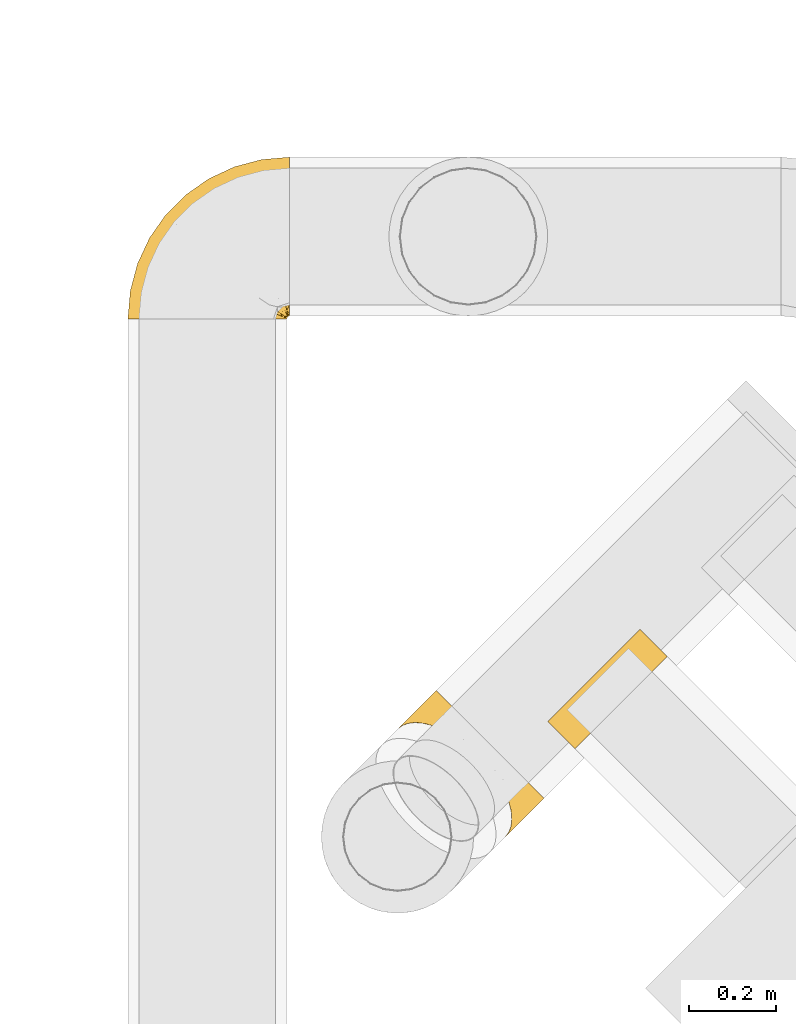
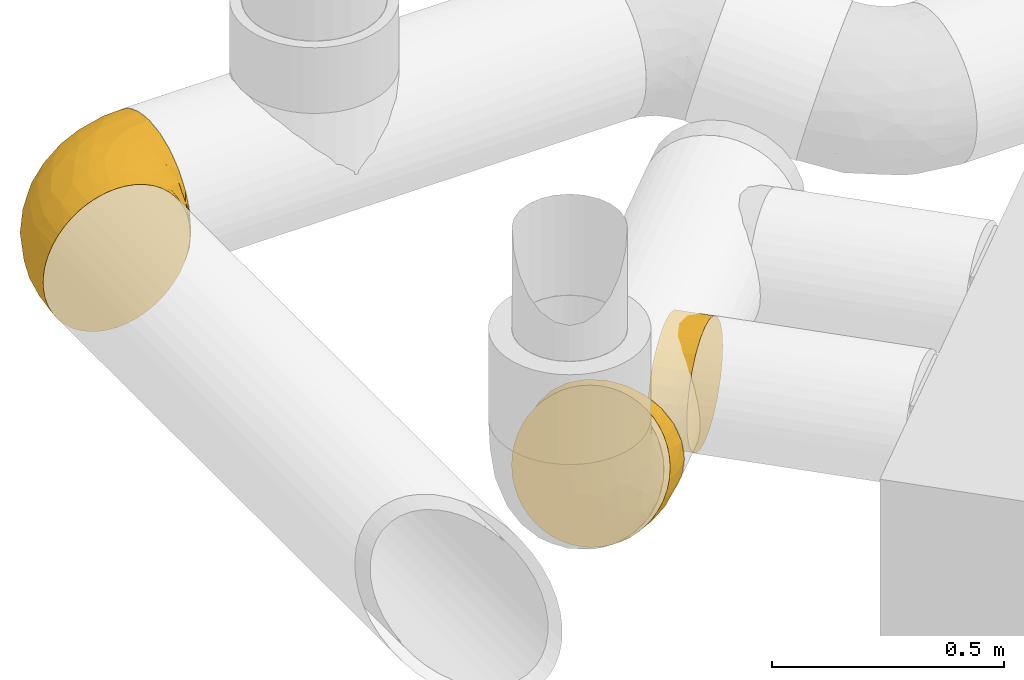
# One storey, part 3 of 12: 3 coverings.
"""IFC2X3 building model written with IfcOpenShell, lengths in millimetres."""

import ifcopenshell
import ifcopenshell.guid

model = None  # the IFC model being written
_history = None  # IfcOwnerHistory: only IFC2X3 demands one
_inside = {}  # id of a spatial element -> (the spatial element, [elements in it])
_under = {}  # id of a project, library or spatial element -> (it, [spatial elements below it])
_declared = {}  # id of a project -> (the project, [libraries it declares])
_typed = {}  # id of a type object -> (the type object, [elements of that type])
_made_of = {}  # id of a material, layer set ... -> (it, [elements and type objects made of it])


def new_model(schema):
    """Start an empty IFC model of exactly this schema.

    Asked for "IFC4X3", IfcOpenShell would pick the latest addendum, in which some entities
    have other attributes; the version numbers below select the first issue.
    IFC2X3 requires an IfcOwnerHistory on every rooted entity: one is made here for all.
    """
    global model, _history
    if schema == "IFC4X3":
        model = ifcopenshell.file(schema_version=(4, 3, 0, 0))
    else:
        model = ifcopenshell.file(schema=schema)
    _inside.clear()
    _under.clear()
    _declared.clear()
    _typed.clear()
    _made_of.clear()
    _history = None
    if model.schema == "IFC2X3":
        org = make("IfcOrganization", Name="unknown")
        user = make(
            "IfcPersonAndOrganization",
            ThePerson=make("IfcPerson", FamilyName="unknown"),
            TheOrganization=org,
        )
        app = make(
            "IfcApplication",
            ApplicationDeveloper=org,
            Version="unknown",
            ApplicationFullName="unknown",
            ApplicationIdentifier="unknown",
        )
        _history = make(
            "IfcOwnerHistory",
            OwningUser=user,
            OwningApplication=app,
            ChangeAction="ADDED",
            CreationDate=0,
        )
    return model


def make(cls, **values):
    """One entity of the class cls with the attributes given. An attribute that is None is left unset."""
    return model.create_entity(
        cls, **{name: value for name, value in values.items() if value is not None}
    )


def entity(cls, *values):
    """Any entity or typed value of the class cls, its attributes in the order of the schema. None: left unset."""
    e = model.create_entity(cls)
    for i, value in enumerate(values):
        if value is not None:
            e[i] = value
    return e


def rooted(cls, **values):
    """An entity with a GlobalId (a new one), such as an element, a storey or a relation."""
    return make(cls, GlobalId=ifcopenshell.guid.new(), OwnerHistory=_history, **values)


def si_unit(unit_type, name, prefix=None):
    """IfcSIUnit, for example si_unit("LENGTHUNIT", "METRE", prefix="MILLI")."""
    return make("IfcSIUnit", UnitType=unit_type, Prefix=prefix, Name=name)


def converted_unit(unit_type, name, factor, base, dimensions=None, offset=None):
    """IfcConversionBasedUnit, such as the inch: factor (a typed value) times the base unit."""
    return make(
        "IfcConversionBasedUnit"
        if offset is None
        else "IfcConversionBasedUnitWithOffset",
        ConversionOffset=offset,
        Dimensions=None
        if dimensions is None
        else entity("IfcDimensionalExponents", *dimensions),
        UnitType=unit_type,
        Name=name,
        ConversionFactor=make(
            "IfcMeasureWithUnit", ValueComponent=factor, UnitComponent=base
        ),
    )


def derived_unit(unit_type, elements):
    """IfcDerivedUnit: a product of units, each with its exponent."""
    return make(
        "IfcDerivedUnit",
        Elements=[
            make("IfcDerivedUnitElement", Unit=unit, Exponent=power)
            for unit, power in elements
        ],
        UnitType=unit_type,
    )


def assignment(units):
    """IfcUnitAssignment: the units of a project."""
    return None if units is None else make("IfcUnitAssignment", Units=units)


def point(xyz):
    """IfcCartesianPoint."""
    return None if xyz is None else make("IfcCartesianPoint", Coordinates=xyz)


def direction(xyz):
    """IfcDirection."""
    return None if xyz is None else make("IfcDirection", DirectionRatios=xyz)


def frame(location, z_axis=None, x_axis=None):
    """IfcAxis2Placement3D, a coordinate frame: its origin and axes. An axis left out is left unset."""
    return make(
        "IfcAxis2Placement3D",
        Location=point(location),
        Axis=direction(z_axis),
        RefDirection=direction(x_axis),
    )


def origin_with_axes():
    """The frame at (0, 0, 0) with the z axis (0, 0, 1) and the x axis (1, 0, 0) written out."""
    return frame((0.0, 0.0, 0.0), z_axis=(0.0, 0.0, 1.0), x_axis=(1.0, 0.0, 0.0))


def place(relative_to, where):
    """IfcLocalPlacement: puts the frame where relative to a parent placement (None: the world)."""
    return make(
        "IfcLocalPlacement", PlacementRelTo=relative_to, RelativePlacement=where
    )


def context(
    kind, dimensions, precision=None, world=None, true_north=None, identifier=None
):
    """IfcGeometricRepresentationContext, for example the 3D "Model" context."""
    return make(
        "IfcGeometricRepresentationContext",
        ContextIdentifier=identifier,
        ContextType=kind,
        CoordinateSpaceDimension=dimensions,
        Precision=precision,
        WorldCoordinateSystem=world,
        TrueNorth=true_north,
    )


def subcontext(parent, identifier, kind, view, scale=None):
    """IfcGeometricRepresentationSubContext, for example "Body" below "Model"."""
    return make(
        "IfcGeometricRepresentationSubContext",
        ContextIdentifier=identifier,
        ContextType=kind,
        ParentContext=parent,
        TargetScale=scale,
        TargetView=view,
    )


def project(units=None, contexts=None):
    """IfcProject with its units and contexts."""
    return rooted(
        "IfcProject",
        Name="project",
        RepresentationContexts=contexts,
        UnitsInContext=assignment(units),
    )


def spatial(cls, under=None, at=None, **own):
    """A site, building, storey or space (cls), placed at a placement, below another one or the project."""
    s = rooted(cls, ObjectPlacement=at, **own)
    if under is not None:
        _under.setdefault(under.id(), (under, []))[1].append(s)
    return s


def faces_of(points, faces, orient=None, outer=None):
    """IfcFace entities. A face is a list of loops; a loop is a list of indices into points, from 0.

    orient and outer hold one flag for each loop. By default every Orientation is true, the
    first loop of a face is its IfcFaceOuterBound and the others are IfcFaceBound.
    """
    made = []
    for i, loops in enumerate(faces):
        bounds = []
        for j, loop in enumerate(loops):
            is_outer = j == 0 if outer is None else outer[i][j]
            bounds.append(
                make(
                    "IfcFaceOuterBound" if is_outer else "IfcFaceBound",
                    Bound=make("IfcPolyLoop", Polygon=[points[k] for k in loop]),
                    Orientation=True if orient is None else orient[i][j],
                )
            )
        made.append(make("IfcFace", Bounds=bounds))
    return made


def open_shell(faces, orient=None, outer=None):
    """The faces of one IfcOpenShell. surface_model builds it on its shared points."""
    return ("IfcOpenShell", faces, orient, outer)


def surface_model(cls, points, shells):
    """IfcFaceBasedSurfaceModel or IfcShellBasedSurfaceModel (cls): surfaces that need not close."""
    shared = [point(p) for p in points]
    made = [make(c, CfsFaces=faces_of(shared, fs, o, b)) for c, fs, o, b in shells]
    if cls == "IfcFaceBasedSurfaceModel":
        return make(cls, FbsmFaces=made)
    return make(cls, SbsmBoundary=made)


def shape(context_of_items, identifier, shape_type, items):
    """IfcShapeRepresentation: the items that make up one representation, for example the "Body"."""
    return make(
        "IfcShapeRepresentation",
        ContextOfItems=context_of_items,
        RepresentationIdentifier=identifier,
        RepresentationType=shape_type,
        Items=items,
    )


def source(mapping_origin, context_of_items, identifier, shape_type, items):
    """IfcRepresentationMap: a shape defined once, which mapped items show again and again."""
    return make(
        "IfcRepresentationMap",
        MappingOrigin=mapping_origin,
        MappedRepresentation=shape(context_of_items, identifier, shape_type, items),
    )


def transform(
    local_origin,
    x_axis=None,
    y_axis=None,
    z_axis=None,
    scale=None,
    scale2=None,
    scale3=None,
    uniform=True,
):
    """IfcCartesianTransformationOperator3D, or its non-uniform kind. x_axis, y_axis, z_axis: its Axis1, 2, 3."""
    if uniform:
        return make(
            "IfcCartesianTransformationOperator3D",
            Axis1=direction(x_axis),
            Axis2=direction(y_axis),
            LocalOrigin=point(local_origin),
            Scale=scale,
            Axis3=direction(z_axis),
        )
    return make(
        "IfcCartesianTransformationOperator3DnonUniform",
        Axis1=direction(x_axis),
        Axis2=direction(y_axis),
        LocalOrigin=point(local_origin),
        Scale=scale,
        Axis3=direction(z_axis),
        Scale2=scale2,
        Scale3=scale3,
    )


def mapped(mapping_source, mapping_target):
    """IfcMappedItem: shows the shape of a source again, moved by a transform."""
    return make(
        "IfcMappedItem", MappingSource=mapping_source, MappingTarget=mapping_target
    )


def made_of(thing, what):
    """Note that an element or type object is made of a material, layer set ...; save() writes the relation."""
    if what is not None:
        _made_of.setdefault(what.id(), (what, []))[1].append(thing)
    return thing


def element(
    cls,
    number,
    at=None,
    inside=None,
    cuts=None,
    type_object=None,
    material=None,
    context=None,
    identifier="Body",
    shape_type=None,
    held_by="IfcProductDefinitionShape",
    body=None,
    shapes=None,
    **own,
):
    """One element of the class cls, such as IfcWall. Its Tag is "e" and its number.

    at: its placement. inside: the storey or other place that contains it. cuts: it is an
    opening in that element (IfcRelVoidsElement). A single representation is given by context,
    identifier, shape_type and body (its items); several are given by shapes. held_by: the class
    of the entity that holds the representations. save() writes the other relations.
    """
    e = rooted(cls, Tag="e%d" % number, ObjectPlacement=at, **own)
    if body is not None:
        shapes = [shape(context, identifier, shape_type, body)]
    if shapes is not None:
        e.Representation = make(held_by, Representations=shapes)
    if inside is not None:
        _inside.setdefault(inside.id(), (inside, []))[1].append(e)
    if cuts is not None:
        rooted(
            "IfcRelVoidsElement", RelatingBuildingElement=cuts, RelatedOpeningElement=e
        )
    if type_object is not None:
        _typed.setdefault(type_object.id(), (type_object, []))[1].append(e)
    return made_of(e, material)


def aggregate(whole, parts):
    """IfcRelAggregates: a whole, such as a stair, and the parts it consists of."""
    return rooted("IfcRelAggregates", RelatingObject=whole, RelatedObjects=parts)


def save(model, path):
    """Write the relations noted so far, then the file.

    IfcRelAggregates (storeys below a building ...), IfcRelContainedInSpatialStructure (elements
    in a storey), IfcRelDefinesByType, IfcRelAssociatesMaterial and IfcRelDeclares: one each for
    every whole, place, type object, material and project.
    """
    for whole, parts in _under.values():
        aggregate(whole, parts)
    for where, things in _inside.values():
        rooted(
            "IfcRelContainedInSpatialStructure",
            RelatedElements=things,
            RelatingStructure=where,
        )
    for kind, things in _typed.values():
        rooted("IfcRelDefinesByType", RelatedObjects=things, RelatingType=kind)
    for what, things in _made_of.values():
        rooted("IfcRelAssociatesMaterial", RelatedObjects=things, RelatingMaterial=what)
    for by, libraries in _declared.values():
        rooted("IfcRelDeclares", RelatingContext=by, RelatedDefinitions=libraries)
    model.write(path)


model = new_model("IFC2X3")

# Units and contexts
model_context = context("Model", 3, precision=0.01, world=frame((0.0, 4.29681676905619e-09, 0.0)), true_north=direction((4.01073788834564e-13, 1.0)))
plan_context = context("Plan", 3, precision=0.01, world=frame((0.0, 4.29681676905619e-09, 0.0)), true_north=direction((4.01073788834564e-13, 1.0)))
body_context = subcontext(model_context, "Body", "Model", "MODEL_VIEW")
ifc_project = project(units=[converted_unit("PLANEANGLEUNIT", "DEGREE", entity("IfcPositiveLengthMeasure", 0.0174532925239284), si_unit("PLANEANGLEUNIT", "RADIAN"), dimensions=[0, 0, 0, 0, 0, 0, 0]), si_unit("AREAUNIT", "SQUARE_METRE"), si_unit("LENGTHUNIT", "METRE", prefix="MILLI"), si_unit("MASSUNIT", "GRAM", prefix="KILO"), si_unit("POWERUNIT", "WATT"), si_unit("PRESSUREUNIT", "PASCAL", prefix="KILO"), si_unit("FORCEUNIT", "NEWTON", prefix="KILO"), si_unit("ELECTRICVOLTAGEUNIT", "VOLT"), si_unit("ELECTRICCURRENTUNIT", "AMPERE"), si_unit("THERMODYNAMICTEMPERATUREUNIT", "DEGREE_CELSIUS"), si_unit("TIMEUNIT", "SECOND"), si_unit("VOLUMEUNIT", "CUBIC_METRE"), derived_unit("LINEARVELOCITYUNIT", [(si_unit("LENGTHUNIT", "METRE"), 1), (si_unit("TIMEUNIT", "SECOND"), -1)]), derived_unit("VOLUMETRICFLOWRATEUNIT", [(si_unit("VOLUMEUNIT", "CUBIC_METRE"), 1), (si_unit("TIMEUNIT", "SECOND"), -1)]), derived_unit("THERMALTRANSMITTANCEUNIT", [(si_unit("POWERUNIT", "WATT"), 1), (si_unit("THERMODYNAMICTEMPERATUREUNIT", "KELVIN"), -1), (si_unit("AREAUNIT", "SQUARE_METRE"), -1)]), derived_unit("SOUNDPRESSUREUNIT", [(si_unit("PRESSUREUNIT", "PASCAL"), 1)])], contexts=[model_context, plan_context])

# Site, building, storey
site_placement = place(None, frame((0.0, -4.29681676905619e-09, 0.0), z_axis=(0.0, 0.0, 1.0), x_axis=(1.0, 0.0, 0.0)))
site = spatial("IfcSite", under=ifc_project, at=site_placement, CompositionType="ELEMENT")
building_placement = place(site_placement, frame((0.0, 4.29681676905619e-09, 0.0), z_axis=(0.0, 0.0, 1.0), x_axis=(1.0, 0.0, 0.0)))
building = spatial("IfcBuilding", under=site, at=building_placement, Name="mc-building", CompositionType="ELEMENT")
storey_placement = place(building_placement, frame((0.0, 0.0, 204000.0), z_axis=(0.0, 0.0, 1.0), x_axis=(1.0, 0.0, 0.0)))
storey = spatial("IfcBuildingStorey", under=building, at=storey_placement, Name="Nivå D", CompositionType="ELEMENT", Elevation=204000.0)

# Coverings
shared_shape_1 = source(origin_with_axes(), body_context, "Body", "SurfaceModel", [
    surface_model("IfcShellBasedSurfaceModel", [(69.84097, 189.0, 168.6075), (91.25153, 189.0, 158.04875), (111.1007, 189.0, 144.78565), (-23.81657, 189.0, 180.93928), (0.0, 189.0, 182.5), (23.82149, 189.0, 180.93863), (158.05133, 189.0, 91.24706), (168.60946, 189.0, 69.83624), (176.28254, 189.0, 47.23048), (180.93928, 189.0, 23.81657), (144.78881, 189.0, 111.09658), (129.04883, 189.0, 129.04515), (-111.09658, 189.0, 144.78881), (-47.23048, 189.0, 176.28254), (-91.24706, 189.0, 158.05133), (-69.83624, 189.0, 168.60946), (-129.04515, 189.0, 129.04883), (-158.04875, 189.0, 91.25153), (-176.28123, 189.0, 47.23535), (-168.6075, 189.0, 69.84097), (-144.78565, 189.0, 111.1007), (-180.93863, 189.0, 23.82149), (-182.5, 189.0, 0.0), (168.6075, 189.0, -69.84097), (180.93863, 189.0, -23.82149), (176.28123, 189.0, -47.23535), (91.24706, 189.0, -158.05133), (158.04875, 189.0, -91.25153), (144.78565, 189.0, -111.1007), (111.09658, 189.0, -144.78881), (69.83624, 189.0, -168.60946), (47.23048, 189.0, -176.28254), (23.81657, 189.0, -180.93928), (129.04515, 189.0, -129.04883), (-168.60946, 189.0, -69.83624), (-144.78881, 189.0, -111.09658), (-158.05133, 189.0, -91.24706), (-23.82149, 189.0, -180.93863), (-69.84097, 189.0, -168.6075), (0.0, 189.0, -182.5), (-47.23535, 189.0, -176.28123), (-111.1007, 189.0, -144.78565), (-91.25153, 189.0, -158.04875), (-129.04883, 189.0, -129.04515), (182.5, 189.0, 0.0), (-189.0, 176.28146, -47.23448), (-189.0, 176.28146, 47.23448), (-189.0, 182.5, 0.0), (-189.0, 158.04964, -91.25), (-189.0, -176.28146, 47.23448), (-189.0, 91.25, -158.04964), (-189.0, 47.23448, -176.28146), (-189.0, 129.04698, -129.04698), (-189.0, 129.04698, 129.04698), (-189.0, 158.04964, 91.25), (-189.0, 47.23448, 176.28146), (-189.0, 91.25, 158.04964), (-189.0, 0.0, 182.5), (-189.0, -176.28146, -47.23448), (-189.0, -47.23448, -176.28146), (-189.0, -129.04698, -129.04698), (-189.0, -91.25, -158.04964), (-189.0, -158.04964, -91.25), (-189.0, -129.04698, 129.04698), (-189.0, -91.25, 158.04964), (-189.0, -47.23448, 176.28146), (-189.0, -158.04964, 91.25), (-189.0, -182.5, 0.0), (-189.0, 0.0, -182.5), (-124.4897, -176.85608, 0.0), (-140.28787, -113.58629, 139.65738), (112.93675, 51.29742, 113.57233), (126.67686, 36.26371, 84.64088), (134.4319, 106.78829, 111.19026), (-61.93952, -160.09581, 0.0), (-99.0067, -165.35368, 46.01893), (-36.80451, -144.41853, 42.37423), (-3.25, -132.72844, 0.0), (20.2954, -112.25886, 41.03768), (104.14185, 129.90078, 145.59351), (18.50003, 40.24342, 170.02594), (-29.2302, 29.2302, 178.7206), (-21.98923, -9.93994, 168.22838), (49.7956, -95.58551, 0.0), (95.58551, -49.7956, 0.0), (71.81869, -71.8187, 30.96813), (-4.73862, 146.94355, 182.5), (17.65802, 97.64771, 178.7206), (149.13237, 91.42244, 82.21918), (15.17626, -101.63263, 75.42756), (112.25885, -20.29541, 41.03768), (146.10062, 36.07593, 33.78674), (47.23535, 189.0, 176.28123), (61.67827, 104.90662, 166.19256), (-76.22989, -105.02159, 132.11331), (-47.10031, -62.05278, 153.06818), (-122.43863, -73.83992, 162.9717), (94.62417, 69.15287, 138.44729), (-81.63605, -34.05989, 172.85179), (-116.85545, -142.65401, 103.35884), (62.91033, 19.67487, 142.08932), (22.23217, 0.31452, 156.28912), (80.53323, -11.83553, 107.97754), (-106.99598, 18.71688, 182.5), (-146.94355, 4.73862, 182.5), (-41.23385, 71.16043, 182.5), (-71.16043, 41.23385, 182.5), (64.99581, -64.99582, 65.8539), (132.72844, 3.25, 0.0), (176.85608, 124.4897, 0.0), (163.00691, 95.72069, 51.2492), (160.09581, 61.93952, 0.0), (25.07687, -73.68204, 104.14494), (100.99277, -17.17918, 74.01604), (30.25322, -30.25323, 136.55802), (-18.71688, 106.99598, 182.5), (-45.89387, -135.01649, 77.5325), (-35.11229, -110.71033, 106.90726), (-15.76706, -76.97653, 129.67451), (-182.95217, 179.79064, 40.35507), (-180.1747, 182.02744, 41.35503), (-184.40381, 184.40381, 0.0), (-186.7517, 179.22981, 35.69859), (-105.21903, 55.66335, 179.75631), (-140.20608, 49.55498, 177.77369), (-173.30917, 171.71626, 76.57838), (-167.47012, 175.67191, 80.71908), (-173.49704, 184.34896, 58.66377), (-160.10711, 178.6444, 90.80213), (-84.53527, 84.53527, 177.77369), (-123.9614, 85.49166, 169.85319), (-180.44269, 186.8774, 28.98626), (-70.09338, 112.51552, 176.17805), (-182.56295, 169.65065, 69.83972), (-100.54916, 112.69699, 167.61728), (-144.24975, 129.66655, 141.96514), (-185.59616, 181.14775, 27.33191), (-187.13658, 183.27184, 0.0), (-152.40917, 84.18383, 165.00087), (-164.40928, 115.08202, 144.78698), (-178.49675, 146.05268, 111.09896), (-144.32064, 162.44693, 120.54112), (-151.748, 156.16312, 117.85674), (-38.79868, 157.8359, 178.99416), (-40.87043, 128.51914, 180.18132), (-104.99985, 164.10668, 151.74498), (-140.3263, 171.3037, 120.33241), (-66.90862, 166.32993, 170.60009), (-167.01766, 150.63899, 111.09896), (-183.27184, 187.13658, 0.0), (-99.96697, 143.83502, 159.23445), (-124.24918, 156.15299, 140.56538), (-67.28184, 142.37945, 172.81601), (-183.83783, 185.7702, 0.0), (-180.65494, 185.12048, 31.29219), (-119.29728, 135.9224, 151.74498), (-185.7702, 183.83783, 0.0), (-178.22564, 170.61121, 72.02255), (-129.91097, 94.96035, -165.0214), (-141.79795, 54.10428, -176.58562), (-152.86031, 86.49032, -163.88149), (-146.94355, 4.73862, -182.5), (-184.71102, 169.06415, -69.83973), (-188.0683, 182.88593, 0.0), (-99.55828, 114.60354, -167.41135), (-123.02551, 129.37693, -152.61429), (-160.52389, 176.39441, -91.58017), (-164.19249, 183.93583, -80.71448), (-140.22914, 171.58344, -120.32851), (-150.01447, 138.11866, -133.06459), (-165.11013, 114.85254, -144.78698), (-59.20446, 117.92957, -177.83013), (-94.35174, 136.40283, -163.67858), (-63.35967, 154.32953, -172.81438), (-142.11499, 150.43978, -129.7946), (-169.06134, 163.4123, -93.78096), (-179.78421, 170.80929, -69.83973), (-177.32689, 177.06463, -60.14275), (-111.39211, 65.48775, -177.33051), (-87.94336, 87.94336, -176.58562), (-41.23385, 71.16043, -182.5), (-177.73421, 146.24637, -111.09896), (-173.84484, 183.32175, -58.65896), (-71.16043, 41.23385, -182.5), (-106.99598, 18.71688, -182.5), (-179.19635, 186.99871, -35.59975), (-180.93928, 189.0, -23.81657), (-176.28254, 189.0, -47.23048), (-181.11909, 185.3052, -28.27745), (-172.54283, 178.30501, -67.96364), (-181.25423, 183.20553, -33.88488), (-186.36648, 179.7002, -33.84353), (-123.25885, 153.70837, -142.20521), (-104.54961, 165.6959, -151.7421), (-184.31088, 180.66343, -33.30575), (-33.6862, 159.51059, -179.86309), (-4.73862, 146.94355, -182.5), (-18.71688, 106.99598, -182.5), (-159.61511, 166.0988, -101.38891), (-172.86706, 156.02965, -100.56205), (-165.72715, 136.89696, -126.09228), (-186.7019, 183.4519, 0.0), (-182.9179, 182.32118, -30.30181), (-185.55285, 183.92785, 0.0), (-97.64777, -17.65796, -178.72061), (92.42782, -18.92039, -86.11789), (64.9964, -64.99641, -65.85176), (49.57078, -51.6556, -104.14415), (-48.85425, 14.92013, -179.21266), (-104.13678, -64.0922, -165.0196), (-76.22989, -105.02159, -132.11331), (-140.28787, -113.58629, -139.65738), (-40.24354, -18.49992, -170.02601), (15.60887, 12.9527, -163.57877), (-34.14541, -59.14577, -150.31298), (3.82434, 54.80521, -176.6273), (163.00429, 95.71541, -51.25324), (126.67233, 36.25835, -84.64422), (148.15814, 111.99687, -93.31431), (26.53016, 117.75471, -178.49993), (84.20189, 121.56842, -157.37973), (54.52793, 67.7419, -162.51001), (-116.85545, -142.65401, -103.35884), (-99.0067, -165.35368, -46.01893), (141.11598, 35.16824, -51.1041), (112.25899, -20.29555, -41.03682), (12.18108, -97.9976, -85.01798), (20.29554, -112.259, -41.03682), (-45.89387, -135.01649, -77.5325), (-36.29785, -146.16802, -33.94951), (-42.78235, -114.59246, -106.82453), (71.81884, -71.81885, -30.96692), (86.56721, 14.87417, -120.60348), (60.36655, 22.89144, -145.14869), (116.75496, 91.9256, -126.23901), (-9.6074, -80.09209, -123.4542), (30.25303, -30.25305, -136.55824)], [open_shell([[[0, 1, 2]], [[3, 4, 5]], [[6, 7, 8]], [[6, 8, 9]], [[10, 6, 2]], [[11, 10, 2]], [[12, 6, 9]], [[13, 14, 15]], [[13, 12, 14]], [[16, 12, 17]], [[17, 18, 19]], [[17, 20, 16]], [[17, 21, 18]], [[21, 17, 22]], [[12, 22, 17]], [[9, 22, 12]], [[23, 24, 25]], [[26, 27, 28]], [[29, 26, 28]], [[30, 31, 32]], [[30, 32, 26]], [[28, 33, 29]], [[34, 35, 36]], [[37, 38, 39]], [[38, 37, 40]], [[41, 38, 42]], [[41, 43, 38]], [[24, 9, 44]], [[45, 46, 47]], [[48, 49, 45]], [[50, 51, 48]], [[50, 48, 52]], [[45, 49, 46]], [[46, 53, 54]], [[49, 55, 53]], [[53, 55, 56]], [[57, 55, 49]], [[49, 53, 46]], [[58, 48, 51]], [[51, 59, 58]], [[60, 59, 61]], [[62, 58, 59]], [[62, 59, 60]], [[48, 58, 49]], [[57, 63, 64]], [[64, 65, 57]], [[63, 49, 66]], [[63, 57, 49]], [[58, 67, 49]], [[51, 68, 59]], [[67, 69, 49]], [[70, 64, 63]], [[71, 72, 73]], [[69, 74, 75]], [[76, 77, 78]], [[79, 11, 2]], [[75, 66, 49]], [[80, 81, 82]], [[83, 84, 85]], [[5, 86, 87]], [[88, 73, 72]], [[76, 78, 89]], [[72, 90, 91]], [[92, 93, 0]], [[83, 78, 77]], [[94, 95, 96]], [[93, 97, 79]], [[57, 65, 98]], [[63, 66, 99]], [[100, 80, 101]], [[100, 102, 71]], [[103, 98, 81]], [[96, 65, 64]], [[57, 98, 104]], [[80, 87, 81]], [[88, 7, 6]], [[83, 85, 78]], [[98, 103, 104]], [[81, 105, 106]], [[100, 93, 80]], [[90, 107, 85]], [[71, 102, 72]], [[99, 94, 70]], [[108, 90, 84]], [[109, 110, 111]], [[10, 88, 6]], [[9, 110, 109]], [[73, 88, 10]], [[89, 107, 112]], [[8, 110, 9]], [[108, 111, 91]], [[110, 8, 7]], [[113, 107, 90]], [[109, 44, 9]], [[107, 102, 112]], [[101, 95, 114]], [[80, 93, 87]], [[87, 115, 105]], [[73, 10, 11]], [[4, 86, 5]], [[82, 81, 98]], [[115, 87, 86]], [[49, 69, 75]], [[0, 93, 79]], [[81, 87, 105]], [[87, 92, 5]], [[73, 79, 97]], [[79, 1, 0]], [[75, 116, 99]], [[1, 79, 2]], [[79, 73, 11]], [[87, 93, 92]], [[117, 112, 118]], [[111, 110, 91]], [[76, 116, 75]], [[103, 81, 106]], [[90, 85, 84]], [[78, 85, 107]], [[95, 82, 98]], [[101, 80, 82]], [[96, 95, 98]], [[95, 94, 118]], [[65, 96, 98]], [[96, 64, 70]], [[75, 99, 66]], [[99, 116, 117]], [[95, 101, 82]], [[100, 101, 114]], [[100, 114, 102]], [[93, 100, 97]], [[112, 102, 114]], [[113, 102, 107]], [[114, 95, 118]], [[107, 89, 78]], [[117, 118, 94]], [[114, 118, 112]], [[99, 117, 94]], [[117, 116, 89]], [[117, 89, 112]], [[76, 89, 116]], [[72, 110, 88]], [[88, 110, 7]], [[73, 97, 71]], [[71, 97, 100]], [[99, 70, 63]], [[96, 70, 94]], [[72, 91, 110]], [[108, 91, 90]], [[90, 72, 113]], [[102, 113, 72]], [[75, 74, 76]], [[77, 76, 74]], [[119, 120, 121]], [[47, 46, 122]], [[123, 124, 103]], [[55, 57, 104]], [[125, 126, 120]], [[127, 126, 128]], [[123, 129, 130]], [[129, 106, 105]], [[131, 18, 21]], [[115, 132, 105]], [[133, 46, 54]], [[120, 119, 125]], [[130, 134, 135]], [[122, 136, 137]], [[124, 104, 103]], [[124, 130, 138]], [[139, 53, 56]], [[106, 123, 103]], [[140, 54, 53]], [[55, 104, 124]], [[56, 55, 138]], [[141, 126, 142]], [[143, 144, 86]], [[130, 129, 134]], [[86, 4, 3]], [[134, 129, 132]], [[145, 16, 146]], [[147, 13, 15]], [[147, 143, 13]], [[139, 148, 140]], [[14, 12, 145]], [[22, 149, 131]], [[146, 16, 20]], [[12, 16, 145]], [[150, 145, 151]], [[17, 128, 20]], [[19, 127, 128]], [[144, 143, 152]], [[115, 144, 132]], [[19, 18, 127]], [[147, 14, 145]], [[138, 55, 124]], [[149, 153, 154]], [[147, 152, 143]], [[142, 135, 155]], [[154, 131, 149]], [[126, 125, 142]], [[17, 19, 128]], [[86, 3, 143]], [[3, 13, 143]], [[140, 133, 54]], [[151, 145, 146]], [[122, 46, 133]], [[120, 153, 121]], [[154, 127, 131]], [[154, 126, 127]], [[156, 137, 136]], [[157, 148, 125]], [[157, 125, 119]], [[148, 135, 142]], [[148, 142, 125]], [[155, 151, 141]], [[129, 123, 106]], [[124, 123, 130]], [[139, 140, 53]], [[133, 140, 148]], [[153, 120, 154]], [[126, 154, 120]], [[148, 139, 135]], [[135, 139, 138]], [[132, 144, 152]], [[86, 144, 115]], [[150, 134, 132]], [[105, 132, 129]], [[150, 132, 152]], [[134, 155, 135]], [[14, 147, 15]], [[145, 152, 147]], [[135, 138, 130]], [[56, 138, 139]], [[18, 131, 127]], [[22, 131, 21]], [[141, 128, 126]], [[128, 146, 20]], [[141, 151, 146]], [[150, 151, 155]], [[134, 150, 155]], [[152, 145, 150]], [[141, 146, 128]], [[155, 141, 142]], [[119, 121, 156]], [[47, 122, 137]], [[133, 157, 136]], [[133, 136, 122]], [[156, 136, 119]], [[136, 157, 119]], [[148, 157, 133]], [[158, 159, 160]], [[160, 51, 50]], [[161, 51, 159]], [[45, 162, 48]], [[45, 47, 163]], [[164, 158, 165]], [[166, 167, 168]], [[169, 158, 170]], [[171, 172, 173]], [[174, 169, 175]], [[68, 51, 161]], [[176, 177, 175]], [[178, 158, 179]], [[171, 180, 179]], [[52, 181, 170]], [[160, 50, 170]], [[182, 167, 166]], [[159, 158, 178]], [[179, 180, 183]], [[168, 35, 43]], [[184, 159, 178]], [[185, 186, 187]], [[186, 185, 22]], [[181, 52, 48]], [[187, 34, 185]], [[22, 185, 149]], [[188, 189, 190]], [[182, 185, 167]], [[162, 191, 176]], [[192, 193, 172]], [[43, 193, 168]], [[193, 43, 41]], [[176, 194, 177]], [[42, 38, 193]], [[173, 38, 40]], [[193, 38, 173]], [[195, 40, 37]], [[173, 172, 193]], [[37, 196, 195]], [[184, 161, 159]], [[39, 196, 37]], [[34, 36, 167]], [[166, 189, 182]], [[173, 195, 171]], [[50, 52, 170]], [[177, 190, 189]], [[195, 197, 171]], [[167, 185, 34]], [[35, 167, 36]], [[192, 168, 193]], [[168, 198, 166]], [[176, 191, 194]], [[189, 198, 177]], [[181, 199, 200]], [[174, 192, 165]], [[162, 181, 48]], [[199, 176, 175]], [[180, 171, 197]], [[164, 171, 179]], [[163, 191, 45]], [[162, 176, 199]], [[191, 163, 201]], [[191, 201, 194]], [[45, 191, 162]], [[202, 203, 121]], [[177, 198, 175]], [[121, 190, 202]], [[188, 185, 182]], [[198, 189, 166]], [[190, 177, 202]], [[190, 121, 153]], [[189, 188, 182]], [[190, 153, 188]], [[153, 149, 188]], [[185, 188, 149]], [[192, 172, 165]], [[168, 192, 174]], [[164, 165, 172]], [[158, 169, 165]], [[169, 174, 165]], [[168, 174, 198]], [[177, 194, 202]], [[202, 194, 203]], [[194, 201, 203]], [[174, 175, 198]], [[170, 181, 200]], [[169, 199, 175]], [[162, 199, 181]], [[199, 169, 200]], [[169, 170, 200]], [[195, 196, 197]], [[40, 195, 173]], [[179, 183, 178]], [[184, 178, 183]], [[160, 159, 51]], [[170, 158, 160]], [[171, 164, 172]], [[158, 164, 179]], [[161, 204, 68]], [[205, 206, 207]], [[204, 184, 208]], [[209, 210, 211]], [[208, 184, 183]], [[212, 213, 214]], [[180, 215, 208]], [[215, 180, 197]], [[59, 204, 209]], [[184, 204, 161]], [[216, 217, 218]], [[219, 197, 196]], [[219, 220, 221]], [[39, 219, 196]], [[222, 223, 62]], [[224, 225, 217]], [[69, 67, 58]], [[226, 227, 228]], [[60, 61, 211]], [[77, 74, 229]], [[214, 209, 212]], [[74, 223, 229]], [[229, 228, 227]], [[223, 74, 69]], [[224, 108, 225]], [[60, 222, 62]], [[212, 215, 213]], [[222, 210, 230]], [[227, 206, 231]], [[205, 232, 217]], [[220, 31, 30]], [[205, 225, 206]], [[39, 32, 219]], [[232, 233, 234]], [[31, 220, 219]], [[62, 223, 58]], [[61, 59, 209]], [[30, 26, 220]], [[218, 33, 28]], [[233, 220, 234]], [[33, 218, 234]], [[68, 204, 59]], [[29, 220, 26]], [[220, 29, 234]], [[69, 58, 223]], [[83, 231, 84]], [[111, 216, 109]], [[111, 108, 224]], [[84, 231, 225]], [[29, 33, 234]], [[216, 218, 23]], [[218, 28, 27]], [[25, 24, 216]], [[227, 83, 77]], [[24, 44, 109]], [[218, 27, 23]], [[208, 212, 204]], [[216, 24, 109]], [[234, 218, 217]], [[216, 23, 25]], [[235, 207, 226]], [[225, 108, 84]], [[209, 204, 212]], [[197, 219, 215]], [[235, 210, 214]], [[213, 215, 221]], [[227, 231, 83]], [[225, 231, 206]], [[222, 60, 211]], [[223, 222, 228]], [[235, 214, 236]], [[210, 209, 214]], [[207, 235, 236]], [[230, 210, 235]], [[207, 236, 232]], [[226, 207, 206]], [[233, 232, 236]], [[217, 232, 234]], [[227, 226, 206]], [[226, 228, 230]], [[180, 208, 183]], [[215, 212, 208]], [[31, 219, 32]], [[221, 215, 219]], [[226, 230, 235]], [[222, 230, 228]], [[232, 205, 207]], [[225, 205, 217]], [[233, 213, 221]], [[214, 213, 236]], [[209, 211, 61]], [[222, 211, 210]], [[217, 216, 224]], [[111, 224, 216]], [[228, 229, 223]], [[77, 229, 227]], [[213, 233, 236]], [[233, 221, 220]], [[9, 187, 22]], [[9, 24, 23]], [[23, 27, 38]], [[23, 187, 9]], [[27, 26, 38]], [[38, 26, 32]], [[35, 34, 43]], [[38, 43, 187]], [[187, 43, 34]], [[186, 22, 187]], [[187, 23, 38]], [[39, 38, 32]], [[167, 35, 168]], [[41, 42, 193]], [[0, 2, 92]], [[92, 3, 5]], [[3, 92, 2]], [[12, 2, 6]], [[13, 3, 2]], [[2, 12, 13]]])]),
])
covering_1_placement = place(storey_placement, frame((596732.0, 404386.04214, 2800.0), z_axis=(0.0, 0.0, 1.0), x_axis=(-1.0, 0.0, 0.0)))
element("IfcCovering", 1, at=covering_1_placement, inside=storey, Name="T=25mm", PredefinedType="INSULATION", context=body_context, shape_type="MappedRepresentation", body=[
    mapped(shared_shape_1, transform((0.0, 0.0, 0.0), scale=1.0)),
])
shared_shape_2 = source(origin_with_axes(), body_context, "Body", "SurfaceModel", [
    surface_model("IfcShellBasedSurfaceModel", [(20.0, 0.0, 150.0), (20.0, -38.82286, 144.88888), (20.0, -75.0, 129.90381), (20.0, -106.06602, 106.06602), (20.0, -129.90381, 75.0), (20.0, -144.88888, 38.82286), (20.0, 106.06602, 106.06602), (20.0, 38.82286, 144.88888), (20.0, 75.0, 129.90381), (20.0, 129.90381, 75.0), (20.0, 150.0, 0.0), (20.0, 144.88888, 38.82286), (20.0, 144.88888, -38.82286), (20.0, -144.88888, -38.82286), (20.0, -150.0, 0.0), (20.0, -38.82286, -144.88888), (20.0, -129.90381, -75.0), (20.0, -75.0, -129.90381), (20.0, -106.06602, -106.06602), (20.0, 0.0, -150.0), (20.0, 129.90381, -75.0), (20.0, 75.0, -129.90381), (20.0, 106.06602, -106.06602), (20.0, 38.82286, -144.88888), (-68.048, -144.88888, -38.82286), (-68.048, -38.82286, -144.88888), (-68.048, -75.0, -129.90381), (-68.048, -129.90381, -75.0), (-68.048, -106.06602, -106.06602), (-68.048, 75.0, -129.90381), (-68.048, 144.88888, -38.82286), (-68.048, -150.0, 0.0), (-68.048, 0.0, -150.0), (-68.048, 38.82286, -144.88888), (-68.048, 129.90381, -75.0), (-68.048, 106.06602, -106.06602), (-68.048, 106.06602, 106.06602), (-68.048, -144.88888, 38.82286), (-68.048, -129.90381, 75.0), (-68.048, -106.06602, 106.06602), (-68.048, 0.0, 150.0), (-68.048, -75.0, 129.90381), (-68.048, -38.82286, 144.88888), (-68.048, 38.82286, 144.88888), (-68.048, 150.0, 0.0), (-68.048, 129.90381, 75.0), (-68.048, 144.88888, 38.82286), (-68.048, 75.0, 129.90381)], [open_shell([[[0, 1, 2]], [[0, 2, 3]], [[3, 4, 5]], [[3, 5, 0]], [[0, 5, 6]], [[7, 6, 8]], [[7, 0, 6]], [[9, 10, 11]], [[10, 9, 6]], [[5, 10, 6]], [[5, 12, 10]], [[13, 12, 14]], [[15, 13, 16]], [[17, 15, 16]], [[17, 16, 18]], [[19, 13, 15]], [[20, 21, 22]], [[21, 20, 12]], [[21, 19, 23]], [[21, 12, 13]], [[13, 19, 21]], [[14, 12, 5]], [[24, 25, 26]], [[27, 26, 28]], [[25, 24, 29]], [[24, 26, 27]], [[30, 24, 31]], [[32, 29, 33]], [[32, 25, 29]], [[29, 34, 35]], [[34, 29, 30]], [[24, 30, 29]], [[31, 36, 30]], [[37, 38, 39]], [[37, 39, 40]], [[41, 42, 40]], [[41, 40, 39]], [[37, 40, 43]], [[44, 45, 46]], [[45, 44, 36]], [[36, 43, 47]], [[44, 30, 36]], [[37, 43, 36]], [[36, 31, 37]], [[37, 14, 5]], [[38, 5, 4]], [[31, 14, 37]], [[38, 3, 39]], [[38, 37, 5]], [[3, 38, 4]], [[41, 2, 1]], [[42, 1, 0]], [[39, 2, 41]], [[41, 1, 42]], [[0, 40, 42]], [[2, 39, 3]], [[0, 7, 43]], [[40, 0, 43]], [[8, 47, 43]], [[47, 8, 6]], [[7, 8, 43]], [[6, 36, 47]], [[45, 9, 11]], [[46, 11, 10]], [[36, 9, 45]], [[45, 11, 46]], [[10, 44, 46]], [[9, 36, 6]], [[20, 22, 34]], [[44, 12, 30]], [[12, 44, 10]], [[30, 12, 20]], [[20, 34, 30]], [[22, 35, 34]], [[29, 21, 23]], [[33, 23, 19]], [[35, 21, 29]], [[29, 23, 33]], [[19, 32, 33]], [[21, 35, 22]], [[25, 15, 17]], [[26, 17, 18]], [[19, 15, 32]], [[32, 15, 25]], [[17, 26, 25]], [[18, 28, 26]], [[27, 16, 13]], [[24, 13, 14]], [[28, 16, 27]], [[27, 13, 24]], [[14, 31, 24]], [[16, 28, 18]]])]),
])
covering_2_placement = place(storey_placement, frame((597669.14233, 403329.07804, 2670.0), z_axis=(0.0, 0.0, -1.0), x_axis=(0.707106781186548, -0.707106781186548, 0.0)))
element("IfcCovering", 2, at=covering_2_placement, inside=storey, Name="EI30-50", PredefinedType="INSULATION", context=body_context, shape_type="MappedRepresentation", body=[
    mapped(shared_shape_2, transform((0.0, 0.0, 0.0), scale=1.0)),
])
shared_shape_3 = source(origin_with_axes(), body_context, "Body", "SurfaceModel", [
    surface_model("IfcShellBasedSurfaceModel", [(-3.85682, 140.6548, 123.74833), (-26.50545, 179.88339, 45.29598), (-22.82601, 173.51041, 66.9732), (-17.76329, 164.74153, 87.50425), (-28.73863, 183.75136, 22.84352), (-11.40792, 153.73369, -106.52751), (-29.4873, 185.0481, 0.0), (-11.40395, 153.72683, 106.53786), (24.53172, 91.4844, 161.68208), (35.37022, 72.71158, 169.03926), (46.59612, 53.26776, 173.50402), (14.26608, 109.26502, 151.55835), (4.74895, 125.74918, 138.84124), (-26.50693, 179.88595, -45.28496), (-28.73931, 183.75254, -22.83318), (-22.82834, 173.51445, -66.96196), (-17.76647, 164.74703, -87.49324), (-3.86147, 140.66285, -123.73904), (4.74378, 125.75814, -138.8333), (14.26058, 109.27456, -151.55199), (35.36471, 72.72112, -169.0363), (24.5261, 91.49414, -161.67743), (58.01271, 33.49365, -175.0), (46.59094, 53.27672, -173.50265), (58.01271, 33.49365, 175.0), (69.43447, 13.71058, 173.50265), (80.6607, -5.73382, 169.0363), (69.42929, 13.71954, -173.50402), (91.4993, -24.50684, 161.67743), (101.76484, -42.28725, 151.55199), (111.28163, -58.77083, 138.8333), (119.88688, -73.67555, 123.73904), (138.85375, -106.52714, 66.96196), (127.43333, -86.74639, 106.52751), (133.79188, -97.75972, 87.49324), (142.53234, -112.89864, 45.28496), (91.49368, -24.4971, -161.68208), (145.51271, -118.06079, 0.0), (144.76472, -116.76524, 22.83318), (119.88223, -73.6675, -123.74833), (111.27646, -58.76187, -138.84124), (127.42936, -86.73951, -106.53786), (101.75933, -42.27772, -151.55835), (80.65519, -5.72427, -169.03926), (144.76404, -116.76406, -22.84352), (138.85142, -106.5231, -66.9732), (142.53086, -112.89608, -45.29598), (133.7887, -97.75422, -87.50425), (-66.9873, 175.0, 0.0), (-66.9873, 169.03701, -45.29333), (-66.9873, 151.55445, -87.5), (-66.9873, 169.03701, 45.29333), (-66.9873, 123.74369, -123.74369), (-66.9873, 87.5, -151.55445), (-66.9873, 45.29333, -169.03701), (-66.9873, 123.74369, 123.74369), (-66.9873, 151.55445, 87.5), (-66.9873, 87.5, 151.55445), (-66.9873, 45.29333, 169.03701), (-66.9873, -45.29333, 169.03701), (-66.9873, 0.0, 175.0), (-66.9873, 0.0, -175.0), (-66.9873, -45.29333, -169.03701), (-66.9873, -87.5, -151.55445), (-66.9873, -151.55445, -87.5), (-66.9873, -123.74369, -123.74369), (-66.9873, -169.03701, -45.29333), (-66.9873, -87.5, 151.55445), (-66.9873, -151.55445, 87.5), (-66.9873, -123.74369, 123.74369), (-66.9873, -175.0, 0.0), (-66.9873, -169.03701, 45.29333), (40.77633, -152.17145, 54.31076), (10.22525, -145.42882, 85.13288), (-11.51367, -171.36407, 0.0), (13.35021, -49.82713, 164.24493), (23.74225, -88.61275, 143.22438), (32.34218, -120.70934, 112.81083), (75.79571, -130.40893, 78.66567), (95.65316, -142.6488, 0.0), (43.0108, -160.51847, 0.0), (5.44154, -20.30811, 172.43655), (-23.57526, 3.79806, 175.0), (18.51774, 15.07685, 175.0), (-27.52969, 141.32921, 112.09368), (-47.85282, 140.49603, 106.53325), (-32.14579, 119.96722, 131.57652), (-16.83833, 62.84627, 165.7155), (-33.63567, 90.95235, 151.55842), (-9.15388, 34.16276, 172.97445), (-47.57587, 177.55557, 0.0), (-44.10963, 173.78768, 39.74045), (-42.90407, 160.12144, 77.40447), (-9.1555, 34.16879, -172.97349), (-23.57526, 3.79806, -175.0), (-30.48876, 149.47735, -100.79625), (-42.90633, 160.12653, -77.39332), (-48.69679, 172.56009, -39.73439), (-47.85363, 140.49588, -106.53325), (-32.14708, 119.97705, -131.56789), (18.51774, 15.07685, -175.0), (-16.84279, 62.85665, -165.71171), (-33.63748, 90.96335, -151.55199), (18.72817, -69.90313, -155.02771), (28.29984, -105.62312, -129.07904), (7.67769, -28.66452, -170.71383), (45.14205, -130.92995, -94.81285), (40.7728, -152.16871, -54.32167)], [open_shell([[[0, 1, 2]], [[3, 0, 2]], [[0, 4, 1]], [[5, 6, 4]], [[7, 0, 3]], [[8, 9, 10]], [[11, 8, 5]], [[12, 11, 4]], [[4, 11, 5]], [[12, 4, 0]], [[10, 5, 8]], [[6, 13, 14]], [[6, 15, 13]], [[15, 5, 16]], [[17, 5, 18]], [[6, 5, 15]], [[19, 20, 21]], [[20, 19, 18]], [[20, 22, 23]], [[20, 18, 5]], [[20, 5, 10]], [[20, 24, 22]], [[20, 10, 24]], [[24, 25, 26]], [[27, 22, 26]], [[28, 29, 30]], [[28, 30, 26]], [[31, 26, 30]], [[32, 31, 33]], [[32, 33, 34]], [[32, 35, 36]], [[31, 32, 36]], [[27, 26, 31]], [[37, 35, 38]], [[39, 40, 41]], [[36, 40, 42]], [[27, 36, 43]], [[40, 36, 44]], [[31, 36, 27]], [[40, 44, 45]], [[45, 44, 46]], [[40, 47, 41]], [[40, 45, 47]], [[35, 44, 36]], [[35, 37, 44]], [[26, 22, 24]], [[48, 49, 50]], [[51, 48, 50]], [[52, 53, 54]], [[52, 54, 50]], [[51, 50, 54]], [[51, 55, 56]], [[55, 51, 57]], [[58, 59, 60]], [[57, 59, 58]], [[59, 57, 51]], [[51, 54, 59]], [[61, 62, 63]], [[63, 64, 54]], [[64, 59, 54]], [[64, 63, 65]], [[59, 64, 66]], [[67, 68, 69]], [[68, 67, 59]], [[68, 70, 71]], [[70, 68, 59]], [[59, 66, 70]], [[54, 61, 63]], [[72, 73, 71]], [[74, 71, 70]], [[67, 75, 59]], [[31, 76, 77]], [[32, 34, 78]], [[68, 73, 69]], [[79, 72, 80]], [[80, 72, 74]], [[69, 76, 67]], [[77, 33, 31]], [[75, 81, 59]], [[75, 67, 76]], [[81, 75, 26]], [[81, 82, 60]], [[77, 69, 73]], [[60, 59, 81]], [[83, 82, 81]], [[72, 71, 74]], [[69, 77, 76]], [[71, 73, 68]], [[38, 72, 79]], [[29, 75, 76]], [[77, 78, 33]], [[77, 73, 78]], [[38, 35, 72]], [[35, 32, 72]], [[31, 30, 76]], [[25, 83, 81]], [[24, 83, 25]], [[78, 34, 33]], [[32, 78, 72]], [[29, 28, 75]], [[26, 75, 28]], [[26, 25, 81]], [[30, 29, 76]], [[79, 37, 38]], [[78, 73, 72]], [[84, 85, 86]], [[58, 60, 82]], [[87, 9, 8]], [[11, 88, 87]], [[10, 9, 89]], [[89, 82, 83]], [[88, 58, 87]], [[90, 48, 51]], [[4, 91, 1]], [[51, 92, 91]], [[86, 12, 0]], [[58, 89, 87]], [[56, 92, 51]], [[56, 85, 92]], [[84, 7, 3]], [[51, 91, 90]], [[86, 11, 12]], [[89, 58, 82]], [[87, 8, 11]], [[57, 88, 55]], [[84, 0, 7]], [[2, 1, 91]], [[87, 89, 9]], [[56, 55, 85]], [[86, 55, 88]], [[83, 24, 10]], [[84, 3, 92]], [[2, 92, 3]], [[10, 89, 83]], [[55, 86, 85]], [[2, 91, 92]], [[90, 4, 6]], [[58, 88, 57]], [[4, 90, 91]], [[0, 84, 86]], [[84, 92, 85]], [[11, 86, 88]], [[54, 93, 94]], [[16, 95, 96]], [[13, 15, 97]], [[97, 48, 90]], [[14, 90, 6]], [[96, 15, 16]], [[95, 98, 96]], [[99, 52, 98]], [[94, 61, 54]], [[94, 93, 100]], [[54, 101, 93]], [[102, 52, 99]], [[53, 102, 54]], [[21, 20, 101]], [[93, 101, 20]], [[14, 13, 97]], [[96, 49, 97]], [[50, 49, 96]], [[99, 18, 19]], [[5, 95, 16]], [[98, 95, 99]], [[52, 50, 98]], [[101, 54, 102]], [[95, 17, 99]], [[50, 96, 98]], [[99, 17, 18]], [[101, 102, 19]], [[19, 102, 99]], [[23, 93, 20]], [[100, 23, 22]], [[97, 90, 14]], [[48, 97, 49]], [[100, 93, 23]], [[52, 102, 53]], [[21, 101, 19]], [[96, 97, 15]], [[95, 5, 17]], [[63, 103, 104]], [[62, 105, 103]], [[106, 39, 41]], [[103, 42, 40]], [[100, 105, 94]], [[94, 105, 61]], [[65, 104, 106]], [[74, 70, 66]], [[80, 74, 107]], [[64, 107, 66]], [[74, 66, 107]], [[79, 80, 107]], [[63, 104, 65]], [[65, 106, 64]], [[46, 44, 107]], [[100, 27, 105]], [[105, 27, 43]], [[36, 103, 105]], [[104, 103, 40]], [[42, 103, 36]], [[40, 39, 104]], [[106, 47, 45]], [[107, 106, 45]], [[79, 107, 44]], [[64, 106, 107]], [[37, 79, 44]], [[105, 43, 36]], [[105, 62, 61]], [[107, 45, 46]], [[106, 104, 39]], [[41, 47, 106]], [[27, 100, 22]], [[62, 103, 63]]])]),
])
covering_3_placement = place(storey_placement, frame((597334.71763, 403171.43003, 2670.0), z_axis=(-0.707106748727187, 0.707106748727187, 0.000302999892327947), x_axis=(-0.707106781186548, -0.707106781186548, 0.0)))
element("IfcCovering", 3, at=covering_3_placement, inside=storey, Name="EI30-30", PredefinedType="INSULATION", context=body_context, shape_type="MappedRepresentation", body=[
    mapped(shared_shape_3, transform((0.0, 0.0, 0.0), scale=1.0)),
])

save(model, "model.ifc")
